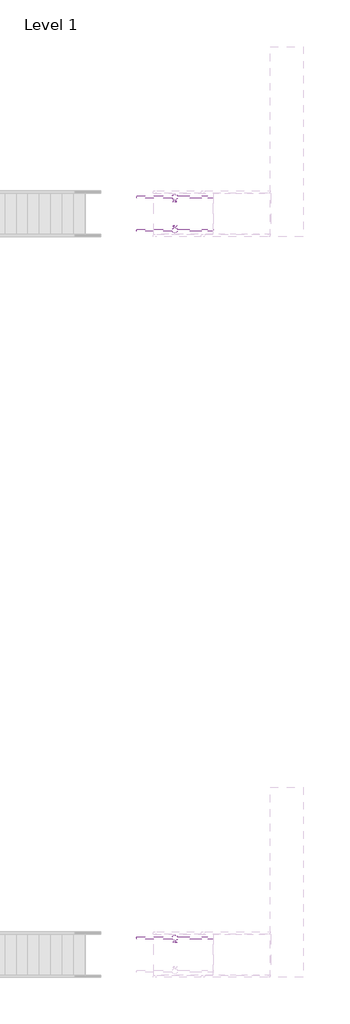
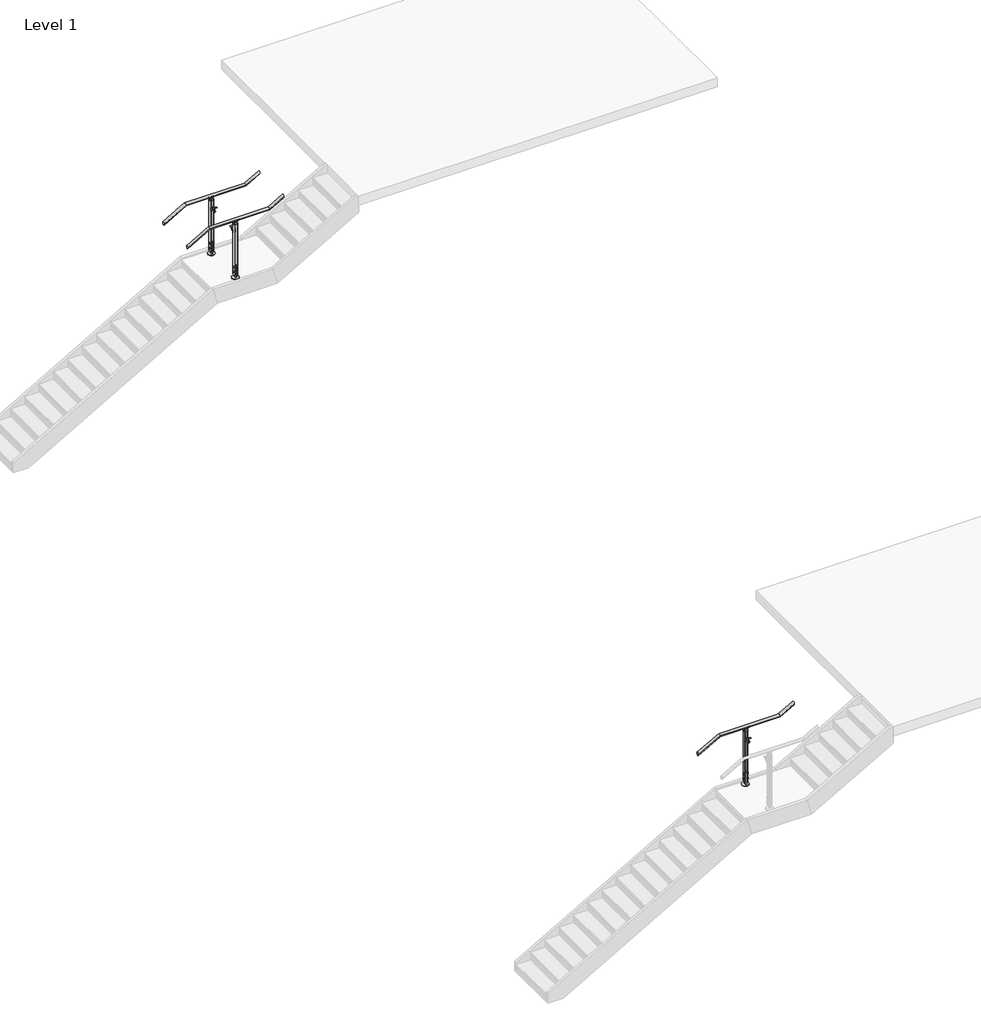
# One storey, part 23 of 36: 3 railings.
"""IFC4 building model written with IfcOpenShell, lengths in millimetres."""

from ifc_helpers import new_model, si_unit, point, frame, frame_2d, origin, place, context, project, spatial, polyline, circle_curve, ellipse_curve, trimmed, segment, composite_curve, outline, extrude, element, save
from ifc_brep_helpers import plane_surface, cylinder_surface, revolved_surface, advanced_brep

model = new_model("IFC4")

# Units and contexts
model_context = context("Model", 3, world=origin())
ifc_project = project(units=[si_unit("LENGTHUNIT", "METRE", prefix="MILLI")], contexts=[model_context])

# Site, building, storey
site = spatial("IfcSite", under=ifc_project)
building = spatial("IfcBuilding", under=site)
storey = spatial("IfcBuildingStorey", under=building, Name="Level 1", Elevation=0.0)

# Railings
placement = place(None, origin())
element("IfcRailing", 1, ObjectType="VIVA-BLADE-Perforated-Core Mount-Stair-Landing", at=placement, inside=storey, context=model_context, shape_type="SolidModel", body=[
    advanced_brep(
    [(87472.8048368, -2337.2855758, 3047.7740933), (87472.8048368, -2286.4855758, 3047.7740933), (87860.5501735, -2337.2855758, 3269.3428571), (87860.5501735, -2286.4855758, 3269.3428571), (88927.3501735, -2337.2855758, 3269.3428571), (88927.3501735, -2286.4855758, 3269.3428571), (89177.7798368, -2337.2855758, 3412.4455219), (89177.7798368, -2286.4855758, 3412.4455219)],
    [
        (0, 1, ellipse_curve(frame((87472.8048368, -2311.8855758, 3047.7740933), z_axis=(-1.0, 0.0, 0.0), x_axis=(0.0, 0.0, -0.9999999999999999)), 29.2544781, 25.4)),
        (1, 0, ellipse_curve(frame((87472.8048368, -2311.8855758, 3047.7740933), z_axis=(-1.0, 0.0, 0.0), x_axis=(0.0, 0.0, -0.9999999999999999)), 29.2544781, 25.4)),
        (0, 2),
        (2, 3, ellipse_curve(frame((87860.5501735, -2311.8855758, 3269.3428571), z_axis=(-0.9664996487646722, 0.0, -0.2566679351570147), x_axis=(0.25666793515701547, 0.0, -0.9664996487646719)), 26.2804027, 25.4)),
        (3, 1),
        (3, 2, ellipse_curve(frame((87860.5501735, -2311.8855758, 3269.3428571), z_axis=(-0.9664996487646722, 0.0, -0.2566679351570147), x_axis=(0.25666793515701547, 0.0, -0.9664996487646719)), 26.2804027, 25.4)),
        (2, 4),
        (4, 5, ellipse_curve(frame((88927.3501735, -2311.8855758, 3269.3428571), z_axis=(-0.9664996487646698, 0.0, -0.2566679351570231), x_axis=(-0.2566679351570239, 0.0, 0.9664996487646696)), 26.2804027, 25.4)),
        (5, 3),
        (5, 4, ellipse_curve(frame((88927.3501735, -2311.8855758, 3269.3428571), z_axis=(-0.9664996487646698, 0.0, -0.2566679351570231), x_axis=(-0.2566679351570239, 0.0, 0.9664996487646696)), 26.2804027, 25.4)),
        (6, 7, ellipse_curve(frame((89177.7798368, -2311.8855758, 3412.4455219), z_axis=(1.0, 0.0, 0.0), x_axis=(0.0, 0.0, -1.0)), 29.2544781, 25.4)),
        (7, 6, ellipse_curve(frame((89177.7798368, -2311.8855758, 3412.4455219), z_axis=(1.0, 0.0, 0.0), x_axis=(0.0, 0.0, -1.0)), 29.2544781, 25.4)),
        (4, 6),
        (7, 5),
    ],
    [
        plane_surface(frame((87472.8048368, -2311.8855758, 3077.0285714), z_axis=(-1.0, 0.0, 0.0), x_axis=(0.0, 1.0, 0.0))),
        cylinder_surface(frame((87485.4067658, -2311.8855758, 3054.9751956), z_axis=(-0.868243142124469, 0.0, -0.49613893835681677), x_axis=(0.0, 1.0, 0.0)), 25.4),
        cylinder_surface(frame((87853.8048368, -2311.8855758, 3269.3428571), z_axis=(-1.0, 0.0, 0.0), x_axis=(0.0, 1.0, 0.0)), 25.4),
        plane_surface(frame((89177.7798368, -2311.8855758, 3441.7), z_axis=(1.0, 0.0, 0.0), x_axis=(0.0, 1.0, 0.0))),
        cylinder_surface(frame((88933.2067658, -2311.8855758, 3272.6894813), z_axis=(-0.8682431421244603, 0.0, -0.4961389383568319), x_axis=(0.0, 1.0, 0.0)), 25.4),
    ],
    [
        (0, [[1, 2]]),
        (1, [[-1, 3, 4, 5]]),
        (1, [[-2, -5, 6, -3]]),
        (2, [[-4, 7, 8, 9]]),
        (2, [[-6, -9, 10, -7]]),
        (3, [[11, 12]]),
        (4, [[-8, 13, -12, 14]]),
        (4, [[-10, -14, -11, -13]]),
    ],
),
    extrude(outline(composite_curve([segment(trimmed(circle_curve(frame_2d((0.0, 7.0)), 7.0), [point((0.0, 14.0))], [point((0.0, 0.0))], False, "CARTESIAN"), True, "CONTINUOUS"), segment(trimmed(circle_curve(frame_2d((0.0, 7.0)), 7.0), [point((0.0, 0.0))], [point((0.0, 14.0))], False, "CARTESIAN"), True, "CONTINUOUS")], self_intersect=False)), frame((88325.2080869, -2226.2019533, 3013.7229503), z_axis=(0.0012555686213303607, 0.0, 0.999999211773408), x_axis=(0.999999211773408, 0.0, -0.0012555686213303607)), (0.0, 0.0, 1.0), 75.97),
    extrude(outline(composite_curve([segment(trimmed(circle_curve(frame_2d((-2217.9540213, 3111.669086)), 19.05), [point((-2231.4836095, 3098.2581672))], [point((-2204.4244331, 3098.2581672))], True, "CARTESIAN"), True, "CONTINUOUS"), segment(polyline([(-2204.4244331, 3098.2581672), (-2203.3980434, 3097.2407802)]), True, "CONTINUOUS"), segment(trimmed(circle_curve(frame_2d((-2204.4540213, 3096.1754583)), 1.5), [point((-2203.3980434, 3097.2407802))], [point((-2203.4686198, 3095.0445366))], False, "CARTESIAN"), True, "CONTINUOUS"), segment(trimmed(circle_curve(frame_2d((-2217.9540213, 3111.669086)), 22.05), [point((-2203.4686198, 3095.0445366))], [point((-2232.4394228, 3095.0445366))], False, "CARTESIAN"), True, "CONTINUOUS"), segment(trimmed(circle_curve(frame_2d((-2231.4540213, 3096.1754583)), 1.5), [point((-2232.4394228, 3095.0445366))], [point((-2232.5099992, 3097.2407802))], False, "CARTESIAN"), True, "CONTINUOUS"), segment(polyline([(-2232.5099992, 3097.2407802), (-2231.4836095, 3098.2581672)]), True, "CONTINUOUS")], self_intersect=False)), frame((88288.8567022, 0.0, 0.0), z_axis=(1.0, 0.0, 0.0), x_axis=(0.0, 1.0, 0.0)), (0.0, 0.0, 1.0), 74.5229187),
    extrude(outline(composite_curve([segment(trimmed(circle_curve(frame_2d((3040.5995463, 88325.2679904)), 12.5), [point((3040.5995463, 88312.7679904))], [point((3040.5995463, 88337.7679904))], False, "CARTESIAN"), True, "CONTINUOUS"), segment(trimmed(circle_curve(frame_2d((3040.5995463, 88325.2679904)), 12.5), [point((3040.5995463, 88337.7679904))], [point((3040.5995463, 88312.7679904))], False, "CARTESIAN"), True, "CONTINUOUS")], self_intersect=False)), frame((0.0, -2286.4857791, 0.0), z_axis=(0.0, 1.0, 0.0), x_axis=(0.0, 0.0, 1.0)), (0.0, 0.0, 1.0), 82.061346),
    extrude(outline(polyline([(88352.3671725, -2280.1357791), (88352.3671725, -2286.4857791), (88298.2397725, -2286.4857791), (88298.2397725, -2280.1357791), (88352.3671725, -2280.1357791)])), frame((0.0, 0.0, 3013.6558249), z_axis=(0.0, 0.0, 1.0), x_axis=(1.0, 0.0, 0.0)), (0.0, 0.0, 1.0), 54.1734375),
    extrude(outline(composite_curve([segment(trimmed(circle_curve(frame_2d((88325.2803999, -2315.3215157)), 63.5), [point((88325.2803999, -2378.8215157))], [point((88325.2803999, -2251.8215157))], False, "CARTESIAN"), True, "CONTINUOUS"), segment(trimmed(circle_curve(frame_2d((88325.2803999, -2315.3215157)), 63.5), [point((88325.2803999, -2251.8215157))], [point((88325.2803999, -2378.8215157))], False, "CARTESIAN"), True, "CONTINUOUS")], self_intersect=False)), frame((0.0, 0.0, 2177.1428571), z_axis=(0.0, 0.0, 1.0), x_axis=(1.0, 0.0, 0.0)), (0.0, 0.0, 1.0), 9.525),
    advanced_brep(
    [(88370.5297368, -2299.1254521, 3247.3396226), (88370.5297368, -2323.9975167, 3247.1963856), (88370.5297368, -2326.806447, 3242.3696317), (88370.5297368, -2295.2895547, 3242.9503901), (88280.0549368, -2299.1254521, 3247.3396226), (88280.0549368, -2295.2895547, 3242.9503901), (88280.0549368, -2326.9202404, 3242.4322535), (88280.0549368, -2324.0844888, 3247.2447018)],
    [
        (0, 1, circle_curve(frame((88370.5297368, -2311.689255, 3269.4544469), z_axis=(-1.0, 0.0, 0.0), x_axis=(0.0, 1.0, 0.0)), 25.4345159)),
        (1, 2, circle_curve(frame((88370.5297368, -2325.3291419, 3244.742217), z_axis=(1.0, 0.0, 0.0), x_axis=(0.0, 1.0, 0.0)), 2.7949225)),
        (2, 3, circle_curve(frame((88370.5297368, -2311.555792, 3270.2170736), z_axis=(1.0, 0.0, 0.0), x_axis=(0.0, 1.0, 0.0)), 31.75)),
        (3, 0, circle_curve(frame((88370.5297368, -2297.5778945, 3244.8213092), z_axis=(1.0, 0.0, 0.0), x_axis=(0.0, 1.0, 0.0)), 2.9558141)),
        (4, 5, circle_curve(frame((88280.0549368, -2297.5778945, 3244.8213092), z_axis=(-1.0, 0.0, 0.0), x_axis=(0.0, 1.0, 0.0)), 2.9558141)),
        (5, 6, circle_curve(frame((88280.0549368, -2311.555792, 3270.2170736), z_axis=(-1.0, 0.0, 0.0), x_axis=(0.0, 1.0, 0.0)), 31.75)),
        (6, 7, circle_curve(frame((88280.0549368, -2325.3291419, 3244.742217), z_axis=(-1.0, 0.0, 0.0), x_axis=(0.0, 1.0, 0.0)), 2.7949225)),
        (7, 4, circle_curve(frame((88280.0549368, -2311.689255, 3269.4544469), z_axis=(1.0, 0.0, 0.0), x_axis=(0.0, 1.0, 0.0)), 25.4345159)),
        (0, 4),
        (7, 1),
        (6, 2),
        (5, 3),
    ],
    [
        plane_surface(frame((88370.5297368, -2286.2547392, 3269.4544469), z_axis=(1.0, 0.0, 0.0), x_axis=(0.0, 0.0, -1.0))),
        plane_surface(frame((88280.0549368, -2286.2547392, 3269.4544469), z_axis=(-1.0, 0.0, 0.0), x_axis=(0.0, 0.0, 1.0))),
        revolved_surface(polyline([(88280.0549368, -2286.2547391, 3269.4544469), (88370.5297368, -2286.2547391, 3269.4544469)]), (88280.0549368, -2311.689255, 3269.4544469), (-1.0, 0.0, 0.0)),
        cylinder_surface(frame((88280.0549368, -2325.3291419, 3244.742217), z_axis=(1.0, 0.0, 0.0), x_axis=(0.0, 1.0, 0.0)), 2.7949225),
        cylinder_surface(frame((88280.0549368, -2311.555792, 3270.2170736), z_axis=(1.0, 0.0, 0.0), x_axis=(0.0, 1.0, 0.0)), 31.75),
        cylinder_surface(frame((88280.0549368, -2297.5778945, 3244.8213092), z_axis=(1.0, 0.0, 0.0), x_axis=(0.0, 1.0, 0.0)), 2.9558141),
    ],
    [
        (0, [[1, 2, 3, 4]]),
        (1, [[5, 6, 7, 8]]),
        (2, [[-1, 9, -8, 10]]),
        (3, [[-2, -10, -7, 11]]),
        (4, [[-3, -11, -6, 12]]),
        (5, [[-4, -12, -5, -9]]),
    ],
),
    advanced_brep(
    [(88337.9923368, -2309.3455758, 3229.6553571), (88312.5923368, -2309.3455758, 3229.6553571), (88298.2244219, -2309.3455758, 3244.023272), (88352.3602517, -2309.3455758, 3244.023272), (88337.9923368, -2314.4255758, 3229.6553571), (88352.3602517, -2314.4255758, 3244.023272), (88298.2244219, -2314.4255758, 3244.023272), (88312.5923368, -2314.4255758, 3229.6553571)],
    [
        (0, 1),
        (1, 2, circle_curve(frame((88298.2244219, -2309.3455758, 3229.6553571), z_axis=(0.0, -1.0, 0.0), x_axis=(-1.0, 0.0, 0.0)), 14.3679149)),
        (2, 3),
        (3, 0, circle_curve(frame((88352.3602517, -2309.3455758, 3229.6553571), z_axis=(0.0, -1.0, 0.0), x_axis=(-1.0, 0.0, 0.0)), 14.3679149)),
        (4, 5, circle_curve(frame((88352.3602517, -2314.4255758, 3229.6553571), z_axis=(0.0, 1.0, 0.0), x_axis=(-1.0, 0.0, 0.0)), 14.3679149)),
        (5, 6),
        (6, 7, circle_curve(frame((88298.2244219, -2314.4255758, 3229.6553571), z_axis=(0.0, 1.0, 0.0), x_axis=(-1.0, 0.0, 0.0)), 14.3679149)),
        (7, 4),
        (0, 4),
        (7, 1),
        (6, 2),
        (5, 3),
    ],
    [
        plane_surface(frame((88312.5923368, -2309.3455758, 3229.6553571), z_axis=(0.0, 1.0, 0.0), x_axis=(-1.0, 0.0, 0.0))),
        plane_surface(frame((88312.5923368, -2314.4255758, 3229.6553571), z_axis=(0.0, -1.0, 0.0), x_axis=(1.0, 0.0, 0.0))),
        plane_surface(frame((88337.9923368, -2309.3455758, 3229.6553571), z_axis=(0.0, 0.0, -1.0), x_axis=(0.0, -1.0, 0.0))),
        revolved_surface(polyline([(88283.856507, -2314.4255758, 3229.6553571), (88283.856507, -2309.3455758, 3229.6553571)]), (88298.2244219, -2314.4255758, 3229.6553571), (0.0, -1.0, 0.0)),
        plane_surface(frame((88298.2244219, -2309.3455758, 3244.023272), z_axis=(0.0, 0.0, 1.0), x_axis=(0.0, -1.0, 0.0))),
        revolved_surface(polyline([(88337.9923368, -2314.4255758, 3229.6553571), (88337.9923368, -2309.3455758, 3229.6553571)]), (88352.3602517, -2314.4255758, 3229.6553571), (0.0, -1.0, 0.0)),
    ],
    [
        (0, [[1, 2, 3, 4]]),
        (1, [[5, 6, 7, 8]]),
        (2, [[-1, 9, -8, 10]]),
        (3, [[-2, -10, -7, 11]]),
        (4, [[-3, -11, -6, 12]]),
        (5, [[-4, -12, -5, -9]]),
    ],
),
    extrude(outline(polyline([(88298.2175011, -2286.4857791), (88306.2423368, -2286.4857791), (88306.2423368, -2337.2881037), (88298.2175011, -2337.2881037), (88298.2175011, -2286.4857791)])), frame((0.0, 0.0, 2237.6440557), z_axis=(0.0, 0.0, 1.0), x_axis=(1.0, 0.0, 0.0)), (0.0, 0.0, 1.0), 974.5488015),
    extrude(outline(polyline([(88333.221338, -2286.486178), (88333.221338, -2337.2861702), (88317.2853476, -2337.2861702), (88317.2853476, -2286.486178), (88333.221338, -2286.486178)])), frame((0.0, 0.0, 2075.5428571), z_axis=(0.0, 0.0, 1.0), x_axis=(1.0, 0.0, 0.0)), (0.0, 0.0, 1.0), 342.9),
    extrude(outline(composite_curve([segment(trimmed(circle_curve(frame_2d((-2324.5880527, 3201.2845501)), 8.89), [point((-2333.4780527, 3201.2845501))], [point((-2315.6980527, 3201.2845501))], False, "CARTESIAN"), True, "CONTINUOUS"), segment(trimmed(circle_curve(frame_2d((-2324.5880527, 3201.2845501)), 8.89), [point((-2315.6980527, 3201.2845501))], [point((-2333.4780527, 3201.2845501))], False, "CARTESIAN"), True, "CONTINUOUS")], self_intersect=False)), frame((88293.5423368, 0.0, 0.0), z_axis=(1.0, 0.0, 0.0), x_axis=(0.0, 1.0, 0.0)), (0.0, 0.0, 1.0), 63.4880631),
    extrude(outline(composite_curve([segment(trimmed(circle_curve(frame_2d((-2299.1881547, 3201.2845501)), 8.89), [point((-2308.0781547, 3201.2845501))], [point((-2290.2981547, 3201.2845501))], False, "CARTESIAN"), True, "CONTINUOUS"), segment(trimmed(circle_curve(frame_2d((-2299.1881547, 3201.2845501)), 8.89), [point((-2290.2981547, 3201.2845501))], [point((-2308.0781547, 3201.2845501))], False, "CARTESIAN"), True, "CONTINUOUS")], self_intersect=False)), frame((88293.5423368, 0.0, 0.0), z_axis=(1.0, 0.0, 0.0), x_axis=(0.0, 1.0, 0.0)), (0.0, 0.0, 1.0), 63.4880631),
    extrude(outline(polyline([(3189.9551571, 88306.2423368), (3189.9551571, 88344.3423368), (3223.3053571, 88344.3423368), (3229.6553571, 88337.9923368), (3229.6553571, 88312.5923368), (3223.3053571, 88306.2423368), (3189.9551571, 88306.2423368)])), frame((0.0, -2337.2881037, 0.0), z_axis=(0.0, 1.0, 0.0), x_axis=(0.0, 0.0, 1.0)), (0.0, 0.0, 1.0), 50.8025279),
    extrude(outline(composite_curve([segment(trimmed(circle_curve(frame_2d((-2311.8853701, 2385.1476493)), 19.05), [point((-2330.9353701, 2385.1476493))], [point((-2292.8353701, 2385.1476493))], False, "CARTESIAN"), True, "CONTINUOUS"), segment(trimmed(circle_curve(frame_2d((-2311.8853701, 2385.1476493)), 19.05), [point((-2292.8353701, 2385.1476493))], [point((-2330.9353701, 2385.1476493))], False, "CARTESIAN"), True, "CONTINUOUS")], self_intersect=False)), frame((88288.8433368, 0.0, 0.0), z_axis=(1.0, 0.0, 0.0), x_axis=(0.0, 1.0, 0.0)), (0.0, 0.0, 1.0), 72.8981531),
    extrude(outline(composite_curve([segment(trimmed(circle_curve(frame_2d((-2311.8853701, 2296.2476493)), 19.05), [point((-2330.9353701, 2296.2476493))], [point((-2292.8353701, 2296.2476493))], False, "CARTESIAN"), True, "CONTINUOUS"), segment(trimmed(circle_curve(frame_2d((-2311.8853701, 2296.2476493)), 19.05), [point((-2292.8353701, 2296.2476493))], [point((-2330.9353701, 2296.2476493))], False, "CARTESIAN"), True, "CONTINUOUS")], self_intersect=False)), frame((88288.8433368, 0.0, 0.0), z_axis=(1.0, 0.0, 0.0), x_axis=(0.0, 1.0, 0.0)), (0.0, 0.0, 1.0), 72.8981531),
    extrude(outline(polyline([(88344.3422988, -2286.4857791), (88352.3432988, -2286.4857791), (88352.3432988, -2337.2881037), (88344.3422988, -2337.2881037), (88344.3422988, -2286.4857791)])), frame((0.0, 0.0, 2237.6440557), z_axis=(0.0, 0.0, 1.0), x_axis=(1.0, 0.0, 0.0)), (0.0, 0.0, 1.0), 974.5488015),
])
element("IfcRailing", 2, ObjectType="VIVA-BLADE-Perforated-Core Mount-Stair-Landing", at=placement, inside=storey, context=model_context, shape_type="SolidModel", body=[
    advanced_brep(
    [(87472.8048368, -1600.6855758, 3047.7740933), (87472.8048368, -1549.8855758, 3047.7740933), (87860.5501735, -1600.6855758, 3269.3428571), (87860.5501735, -1549.8855758, 3269.3428571), (88927.3501735, -1600.6855758, 3269.3428571), (88927.3501735, -1549.8855758, 3269.3428571), (89177.7798368, -1600.6855758, 3412.4455219), (89177.7798368, -1549.8855758, 3412.4455219)],
    [
        (0, 1, ellipse_curve(frame((87472.8048368, -1575.2855758, 3047.7740933), z_axis=(-1.0, 0.0, 0.0), x_axis=(0.0, 0.0, -0.9999999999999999)), 29.2544781, 25.4)),
        (1, 0, ellipse_curve(frame((87472.8048368, -1575.2855758, 3047.7740933), z_axis=(-1.0, 0.0, 0.0), x_axis=(0.0, 0.0, -0.9999999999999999)), 29.2544781, 25.4)),
        (0, 2),
        (2, 3, ellipse_curve(frame((87860.5501735, -1575.2855758, 3269.3428571), z_axis=(-0.9664996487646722, 0.0, -0.2566679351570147), x_axis=(0.25666793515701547, 0.0, -0.9664996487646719)), 26.2804027, 25.4)),
        (3, 1),
        (3, 2, ellipse_curve(frame((87860.5501735, -1575.2855758, 3269.3428571), z_axis=(-0.9664996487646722, 0.0, -0.2566679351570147), x_axis=(0.25666793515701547, 0.0, -0.9664996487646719)), 26.2804027, 25.4)),
        (2, 4),
        (4, 5, ellipse_curve(frame((88927.3501735, -1575.2855758, 3269.3428571), z_axis=(-0.9664996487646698, 0.0, -0.2566679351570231), x_axis=(-0.2566679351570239, 0.0, 0.9664996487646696)), 26.2804027, 25.4)),
        (5, 3),
        (5, 4, ellipse_curve(frame((88927.3501735, -1575.2855758, 3269.3428571), z_axis=(-0.9664996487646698, 0.0, -0.2566679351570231), x_axis=(-0.2566679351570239, 0.0, 0.9664996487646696)), 26.2804027, 25.4)),
        (6, 7, ellipse_curve(frame((89177.7798368, -1575.2855758, 3412.4455219), z_axis=(1.0, 0.0, 0.0), x_axis=(0.0, 0.0, -1.0)), 29.2544781, 25.4)),
        (7, 6, ellipse_curve(frame((89177.7798368, -1575.2855758, 3412.4455219), z_axis=(1.0, 0.0, 0.0), x_axis=(0.0, 0.0, -1.0)), 29.2544781, 25.4)),
        (4, 6),
        (7, 5),
    ],
    [
        plane_surface(frame((87472.8048368, -1575.2855758, 3077.0285714), z_axis=(-1.0, 0.0, 0.0), x_axis=(0.0, 1.0, 0.0))),
        cylinder_surface(frame((87485.4067658, -1575.2855758, 3054.9751956), z_axis=(-0.868243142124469, 0.0, -0.49613893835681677), x_axis=(0.0, 1.0, 0.0)), 25.4),
        cylinder_surface(frame((87853.8048368, -1575.2855758, 3269.3428571), z_axis=(-1.0, 0.0, 0.0), x_axis=(0.0, 1.0, 0.0)), 25.4),
        plane_surface(frame((89177.7798368, -1575.2855758, 3441.7), z_axis=(1.0, 0.0, 0.0), x_axis=(0.0, 1.0, 0.0))),
        cylinder_surface(frame((88933.2067658, -1575.2855758, 3272.6894813), z_axis=(-0.8682431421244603, 0.0, -0.4961389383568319), x_axis=(0.0, 1.0, 0.0)), 25.4),
    ],
    [
        (0, [[1, 2]]),
        (1, [[-1, 3, 4, 5]]),
        (1, [[-2, -5, 6, -3]]),
        (2, [[-4, 7, 8, 9]]),
        (2, [[-6, -9, 10, -7]]),
        (3, [[11, 12]]),
        (4, [[-8, 13, -12, 14]]),
        (4, [[-10, -14, -11, -13]]),
    ],
),
    extrude(outline(composite_curve([segment(trimmed(circle_curve(frame_2d((0.0, -7.0)), 7.0), [point((0.0, -14.0))], [point((0.0, 0.0))], False, "CARTESIAN"), True, "CONTINUOUS"), segment(trimmed(circle_curve(frame_2d((0.0, -7.0)), 7.0), [point((0.0, 0.0))], [point((0.0, -14.0))], False, "CARTESIAN"), True, "CONTINUOUS")], self_intersect=False)), frame((88325.2080869, -1660.9691982, 3013.7229503), z_axis=(0.0012555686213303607, 0.0, 0.999999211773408), x_axis=(0.999999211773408, 0.0, -0.0012555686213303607)), (0.0, 0.0, 1.0), 75.97),
    extrude(outline(composite_curve([segment(polyline([(-1655.687542, 3098.2581672), (-1654.6611524, 3097.2407802)]), True, "CONTINUOUS"), segment(trimmed(circle_curve(frame_2d((-1655.7171303, 3096.1754583)), 1.5), [point((-1654.6611524, 3097.2407802))], [point((-1654.7317288, 3095.0445366))], False, "CARTESIAN"), True, "CONTINUOUS"), segment(trimmed(circle_curve(frame_2d((-1669.2171303, 3111.669086)), 22.05), [point((-1654.7317288, 3095.0445366))], [point((-1683.7025317, 3095.0445366))], False, "CARTESIAN"), True, "CONTINUOUS"), segment(trimmed(circle_curve(frame_2d((-1682.7171303, 3096.1754583)), 1.5), [point((-1683.7025317, 3095.0445366))], [point((-1683.7731081, 3097.2407802))], False, "CARTESIAN"), True, "CONTINUOUS"), segment(polyline([(-1683.7731081, 3097.2407802), (-1682.7467185, 3098.2581672)]), True, "CONTINUOUS"), segment(trimmed(circle_curve(frame_2d((-1669.2171303, 3111.669086)), 19.05), [point((-1682.7467185, 3098.2581672))], [point((-1655.687542, 3098.2581672))], True, "CARTESIAN"), True, "CONTINUOUS")], self_intersect=False)), frame((88288.8567022, 0.0, 0.0), z_axis=(1.0, 0.0, 0.0), x_axis=(0.0, 1.0, 0.0)), (0.0, 0.0, 1.0), 74.5229187),
    extrude(outline(composite_curve([segment(trimmed(circle_curve(frame_2d((3040.5995463, 88325.2679904)), 12.5), [point((3040.5995463, 88312.7679904))], [point((3040.5995463, 88337.7679904))], False, "CARTESIAN"), True, "CONTINUOUS"), segment(trimmed(circle_curve(frame_2d((3040.5995463, 88325.2679904)), 12.5), [point((3040.5995463, 88337.7679904))], [point((3040.5995463, 88312.7679904))], False, "CARTESIAN"), True, "CONTINUOUS")], self_intersect=False)), frame((0.0, -1682.7467185, 0.0), z_axis=(0.0, 1.0, 0.0), x_axis=(0.0, 0.0, 1.0)), (0.0, 0.0, 1.0), 82.061346),
    extrude(outline(polyline([(88352.3671725, -1607.0353725), (88298.2397725, -1607.0353725), (88298.2397725, -1600.6853725), (88352.3671725, -1600.6853725), (88352.3671725, -1607.0353725)])), frame((0.0, 0.0, 3013.6558249), z_axis=(0.0, 0.0, 1.0), x_axis=(1.0, 0.0, 0.0)), (0.0, 0.0, 1.0), 54.1734375),
    extrude(outline(composite_curve([segment(trimmed(circle_curve(frame_2d((88325.2803999, -1571.8496359)), 63.5), [point((88325.2803999, -1508.3496359))], [point((88325.2803999, -1635.3496359))], False, "CARTESIAN"), True, "CONTINUOUS"), segment(trimmed(circle_curve(frame_2d((88325.2803999, -1571.8496359)), 63.5), [point((88325.2803999, -1635.3496359))], [point((88325.2803999, -1508.3496359))], False, "CARTESIAN"), True, "CONTINUOUS")], self_intersect=False)), frame((0.0, 0.0, 2177.1428571), z_axis=(0.0, 0.0, 1.0), x_axis=(1.0, 0.0, 0.0)), (0.0, 0.0, 1.0), 9.525),
    advanced_brep(
    [(88370.5297368, -1588.0456994, 3247.3396226), (88370.5297368, -1591.8815968, 3242.9503901), (88370.5297368, -1560.3647046, 3242.3696317), (88370.5297368, -1563.1736349, 3247.1963856), (88280.0549368, -1588.0456994, 3247.3396226), (88280.0549368, -1563.0866628, 3247.2447018), (88280.0549368, -1560.2509112, 3242.4322535), (88280.0549368, -1591.8815968, 3242.9503901)],
    [
        (0, 1, circle_curve(frame((88370.5297368, -1589.5932571, 3244.8213092), z_axis=(1.0, 0.0, 0.0), x_axis=(0.0, -1.0, 0.0)), 2.9558141)),
        (1, 2, circle_curve(frame((88370.5297368, -1575.6153596, 3270.2170736), z_axis=(1.0, 0.0, 0.0), x_axis=(0.0, -1.0, 0.0)), 31.75)),
        (2, 3, circle_curve(frame((88370.5297368, -1561.8420096, 3244.742217), z_axis=(1.0, 0.0, 0.0), x_axis=(0.0, -1.0, 0.0)), 2.7949225)),
        (3, 0, circle_curve(frame((88370.5297368, -1575.4818965, 3269.4544469), z_axis=(-1.0, 0.0, 0.0), x_axis=(0.0, -1.0, 0.0)), 25.4345159)),
        (4, 5, circle_curve(frame((88280.0549368, -1575.4818965, 3269.4544469), z_axis=(1.0, 0.0, 0.0), x_axis=(0.0, -1.0, 0.0)), 25.4345159)),
        (5, 6, circle_curve(frame((88280.0549368, -1561.8420096, 3244.742217), z_axis=(-1.0, 0.0, 0.0), x_axis=(0.0, -1.0, 0.0)), 2.7949225)),
        (6, 7, circle_curve(frame((88280.0549368, -1575.6153596, 3270.2170736), z_axis=(-1.0, 0.0, 0.0), x_axis=(0.0, -1.0, 0.0)), 31.75)),
        (7, 4, circle_curve(frame((88280.0549368, -1589.5932571, 3244.8213092), z_axis=(-1.0, 0.0, 0.0), x_axis=(0.0, -1.0, 0.0)), 2.9558141)),
        (3, 5),
        (4, 0),
        (2, 6),
        (1, 7),
    ],
    [
        plane_surface(frame((88370.5297368, -1600.9164124, 3269.4544469), z_axis=(1.0, 0.0, 0.0), x_axis=(0.0, 0.0, -1.0))),
        plane_surface(frame((88280.0549368, -1600.9164124, 3269.4544469), z_axis=(-1.0, 0.0, 0.0), x_axis=(0.0, 0.0, 1.0))),
        revolved_surface(polyline([(88280.0549368, -1600.9164124, 3269.4544469), (88370.5297368, -1600.9164124, 3269.4544469)]), (88280.0549368, -1575.4818965, 3269.4544469), (-1.0, 0.0, 0.0)),
        cylinder_surface(frame((88280.0549368, -1561.8420096, 3244.742217), z_axis=(1.0, 0.0, 0.0), x_axis=(0.0, -1.0, 0.0)), 2.7949225),
        cylinder_surface(frame((88280.0549368, -1575.6153596, 3270.2170736), z_axis=(1.0, 0.0, 0.0), x_axis=(0.0, -1.0, 0.0)), 31.75),
        cylinder_surface(frame((88280.0549368, -1589.5932571, 3244.8213092), z_axis=(1.0, 0.0, 0.0), x_axis=(0.0, -1.0, 0.0)), 2.9558141),
    ],
    [
        (0, [[1, 2, 3, 4]]),
        (1, [[5, 6, 7, 8]]),
        (2, [[9, -5, 10, -4]]),
        (3, [[11, -6, -9, -3]]),
        (4, [[12, -7, -11, -2]]),
        (5, [[-10, -8, -12, -1]]),
    ],
),
    advanced_brep(
    [(88337.9923368, -1577.8255758, 3229.6553571), (88352.3602517, -1577.8255758, 3244.023272), (88298.2244219, -1577.8255758, 3244.023272), (88312.5923368, -1577.8255758, 3229.6553571), (88337.9923368, -1572.7455758, 3229.6553571), (88312.5923368, -1572.7455758, 3229.6553571), (88298.2244219, -1572.7455758, 3244.023272), (88352.3602517, -1572.7455758, 3244.023272)],
    [
        (0, 1, circle_curve(frame((88352.3602517, -1577.8255758, 3229.6553571), z_axis=(0.0, 1.0, 0.0), x_axis=(-1.0, 0.0, 0.0)), 14.3679149)),
        (1, 2),
        (2, 3, circle_curve(frame((88298.2244219, -1577.8255758, 3229.6553571), z_axis=(0.0, 1.0, 0.0), x_axis=(-1.0, 0.0, 0.0)), 14.3679149)),
        (3, 0),
        (4, 5),
        (5, 6, circle_curve(frame((88298.2244219, -1572.7455758, 3229.6553571), z_axis=(0.0, -1.0, 0.0), x_axis=(-1.0, 0.0, 0.0)), 14.3679149)),
        (6, 7),
        (7, 4, circle_curve(frame((88352.3602517, -1572.7455758, 3229.6553571), z_axis=(0.0, -1.0, 0.0), x_axis=(-1.0, 0.0, 0.0)), 14.3679149)),
        (3, 5),
        (4, 0),
        (2, 6),
        (1, 7),
    ],
    [
        plane_surface(frame((88312.5923368, -1577.8255758, 3229.6553571), z_axis=(0.0, -1.0, 0.0), x_axis=(-1.0, 0.0, 0.0))),
        plane_surface(frame((88312.5923368, -1572.7455758, 3229.6553571), z_axis=(0.0, 1.0, 0.0), x_axis=(1.0, 0.0, 0.0))),
        plane_surface(frame((88337.9923368, -1577.8255758, 3229.6553571), z_axis=(0.0, 0.0, -1.0), x_axis=(0.0, 1.0, 0.0))),
        revolved_surface(polyline([(88283.856507, -1572.7455758, 3229.6553571), (88283.856507, -1577.8255758, 3229.6553571)]), (88298.2244219, -1572.7455758, 3229.6553571), (0.0, 1.0, 0.0)),
        plane_surface(frame((88298.2244219, -1577.8255758, 3244.023272), z_axis=(0.0, 0.0, 1.0), x_axis=(0.0, 1.0, 0.0))),
        revolved_surface(polyline([(88337.9923368, -1572.7455758, 3229.6553571), (88337.9923368, -1577.8255758, 3229.6553571)]), (88352.3602517, -1572.7455758, 3229.6553571), (0.0, 1.0, 0.0)),
    ],
    [
        (0, [[1, 2, 3, 4]]),
        (1, [[5, 6, 7, 8]]),
        (2, [[9, -5, 10, -4]]),
        (3, [[11, -6, -9, -3]]),
        (4, [[12, -7, -11, -2]]),
        (5, [[-10, -8, -12, -1]]),
    ],
),
    extrude(outline(polyline([(88298.2175011, -1600.6853725), (88298.2175011, -1549.8830478), (88306.2423368, -1549.8830478), (88306.2423368, -1600.6853725), (88298.2175011, -1600.6853725)])), frame((0.0, 0.0, 2237.6440557), z_axis=(0.0, 0.0, 1.0), x_axis=(1.0, 0.0, 0.0)), (0.0, 0.0, 1.0), 974.5488015),
    extrude(outline(polyline([(88333.221338, -1600.6849736), (88317.2853476, -1600.6849736), (88317.2853476, -1549.8849813), (88333.221338, -1549.8849813), (88333.221338, -1600.6849736)])), frame((0.0, 0.0, 2075.5428571), z_axis=(0.0, 0.0, 1.0), x_axis=(1.0, 0.0, 0.0)), (0.0, 0.0, 1.0), 342.9),
    extrude(outline(composite_curve([segment(trimmed(circle_curve(frame_2d((-1562.5830988, 3201.2845501)), 8.89), [point((-1553.6930988, 3201.2845501))], [point((-1571.4730988, 3201.2845501))], False, "CARTESIAN"), True, "CONTINUOUS"), segment(trimmed(circle_curve(frame_2d((-1562.5830988, 3201.2845501)), 8.89), [point((-1571.4730988, 3201.2845501))], [point((-1553.6930988, 3201.2845501))], False, "CARTESIAN"), True, "CONTINUOUS")], self_intersect=False)), frame((88293.5423368, 0.0, 0.0), z_axis=(1.0, 0.0, 0.0), x_axis=(0.0, 1.0, 0.0)), (0.0, 0.0, 1.0), 63.4880631),
    extrude(outline(composite_curve([segment(trimmed(circle_curve(frame_2d((-1587.9829968, 3201.2845501)), 8.89), [point((-1579.0929968, 3201.2845501))], [point((-1596.8729968, 3201.2845501))], False, "CARTESIAN"), True, "CONTINUOUS"), segment(trimmed(circle_curve(frame_2d((-1587.9829968, 3201.2845501)), 8.89), [point((-1596.8729968, 3201.2845501))], [point((-1579.0929968, 3201.2845501))], False, "CARTESIAN"), True, "CONTINUOUS")], self_intersect=False)), frame((88293.5423368, 0.0, 0.0), z_axis=(1.0, 0.0, 0.0), x_axis=(0.0, 1.0, 0.0)), (0.0, 0.0, 1.0), 63.4880631),
    extrude(outline(polyline([(3189.9551571, 88306.2423368), (3189.9551571, 88344.3423368), (3223.3053571, 88344.3423368), (3229.6553571, 88337.9923368), (3229.6553571, 88312.5923368), (3223.3053571, 88306.2423368), (3189.9551571, 88306.2423368)])), frame((0.0, -1600.6855758, 0.0), z_axis=(0.0, 1.0, 0.0), x_axis=(0.0, 0.0, 1.0)), (0.0, 0.0, 1.0), 50.8025279),
    extrude(outline(composite_curve([segment(trimmed(circle_curve(frame_2d((-1575.2857815, 2385.1476493)), 19.05), [point((-1556.2357815, 2385.1476493))], [point((-1594.3357815, 2385.1476493))], False, "CARTESIAN"), True, "CONTINUOUS"), segment(trimmed(circle_curve(frame_2d((-1575.2857815, 2385.1476493)), 19.05), [point((-1594.3357815, 2385.1476493))], [point((-1556.2357815, 2385.1476493))], False, "CARTESIAN"), True, "CONTINUOUS")], self_intersect=False)), frame((88288.8433368, 0.0, 0.0), z_axis=(1.0, 0.0, 0.0), x_axis=(0.0, 1.0, 0.0)), (0.0, 0.0, 1.0), 72.8981531),
    extrude(outline(composite_curve([segment(trimmed(circle_curve(frame_2d((-1575.2857815, 2296.2476493)), 19.05), [point((-1556.2357815, 2296.2476493))], [point((-1594.3357815, 2296.2476493))], False, "CARTESIAN"), True, "CONTINUOUS"), segment(trimmed(circle_curve(frame_2d((-1575.2857815, 2296.2476493)), 19.05), [point((-1594.3357815, 2296.2476493))], [point((-1556.2357815, 2296.2476493))], False, "CARTESIAN"), True, "CONTINUOUS")], self_intersect=False)), frame((88288.8433368, 0.0, 0.0), z_axis=(1.0, 0.0, 0.0), x_axis=(0.0, 1.0, 0.0)), (0.0, 0.0, 1.0), 72.8981531),
    extrude(outline(polyline([(88344.3422988, -1600.6853725), (88344.3422988, -1549.8830478), (88352.3432988, -1549.8830478), (88352.3432988, -1600.6853725), (88344.3422988, -1600.6853725)])), frame((0.0, 0.0, 2237.6440557), z_axis=(0.0, 0.0, 1.0), x_axis=(1.0, 0.0, 0.0)), (0.0, 0.0, 1.0), 974.5488015),
])
element("IfcRailing", 3, ObjectType="VIVA-BLADE-Wire Mesh-Core Mount-Stair-Landing", at=placement, inside=storey, context=model_context, shape_type="SolidModel", body=[
    advanced_brep(
    [(87472.8048368, -18068.5990002, 3047.7740933), (87472.8048368, -18017.7990002, 3047.7740933), (87860.5501735, -18068.5990002, 3269.3428571), (87860.5501735, -18017.7990002, 3269.3428571), (88927.3501735, -18068.5990002, 3269.3428571), (88927.3501735, -18017.7990002, 3269.3428571), (89177.7798368, -18068.5990002, 3412.4455219), (89177.7798368, -18017.7990002, 3412.4455219)],
    [
        (0, 1, ellipse_curve(frame((87472.8048368, -18043.1990002, 3047.7740933), z_axis=(-1.0, 0.0, 0.0), x_axis=(0.0, 0.0, -0.9999999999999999)), 29.2544781, 25.4)),
        (1, 0, ellipse_curve(frame((87472.8048368, -18043.1990002, 3047.7740933), z_axis=(-1.0, 0.0, 0.0), x_axis=(0.0, 0.0, -0.9999999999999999)), 29.2544781, 25.4)),
        (0, 2),
        (2, 3, ellipse_curve(frame((87860.5501735, -18043.1990002, 3269.3428571), z_axis=(-0.9664996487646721, 0.0, -0.2566679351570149), x_axis=(0.25666793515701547, 0.0, -0.9664996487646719)), 26.2804027, 25.4)),
        (3, 1),
        (3, 2, ellipse_curve(frame((87860.5501735, -18043.1990002, 3269.3428571), z_axis=(-0.9664996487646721, 0.0, -0.2566679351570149), x_axis=(0.25666793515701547, 0.0, -0.9664996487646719)), 26.2804027, 25.4)),
        (2, 4),
        (4, 5, ellipse_curve(frame((88927.3501735, -18043.1990002, 3269.3428571), z_axis=(-0.9664996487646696, 0.0, -0.25666793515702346), x_axis=(-0.2566679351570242, 0.0, 0.9664996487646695)), 26.2804027, 25.4)),
        (5, 3),
        (5, 4, ellipse_curve(frame((88927.3501735, -18043.1990002, 3269.3428571), z_axis=(-0.9664996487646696, 0.0, -0.25666793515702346), x_axis=(-0.2566679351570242, 0.0, 0.9664996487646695)), 26.2804027, 25.4)),
        (6, 7, ellipse_curve(frame((89177.7798368, -18043.1990002, 3412.4455219), z_axis=(1.0, 0.0, 0.0), x_axis=(0.0, 0.0, -1.0)), 29.2544781, 25.4)),
        (7, 6, ellipse_curve(frame((89177.7798368, -18043.1990002, 3412.4455219), z_axis=(1.0, 0.0, 0.0), x_axis=(0.0, 0.0, -1.0)), 29.2544781, 25.4)),
        (4, 6),
        (7, 5),
    ],
    [
        plane_surface(frame((87472.8048368, -18043.1990002, 3077.0285714), z_axis=(-1.0, 0.0, 0.0), x_axis=(0.0, 1.0, 0.0))),
        cylinder_surface(frame((87485.4067658, -18043.1990002, 3054.9751956), z_axis=(-0.8682431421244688, 0.0, -0.496138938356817), x_axis=(0.0, 1.0, 0.0)), 25.4),
        cylinder_surface(frame((87853.8048368, -18043.1990002, 3269.3428571), z_axis=(-1.0, 0.0, 0.0), x_axis=(0.0, 1.0, 0.0)), 25.4),
        plane_surface(frame((89177.7798368, -18043.1990002, 3441.7), z_axis=(1.0, 0.0, 0.0), x_axis=(0.0, 1.0, 0.0))),
        cylinder_surface(frame((88933.2067658, -18043.1990002, 3272.6894813), z_axis=(-0.8682431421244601, 0.0, -0.49613893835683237), x_axis=(0.0, 1.0, 0.0)), 25.4),
    ],
    [
        (0, [[1, 2]]),
        (1, [[-1, 3, 4, 5]]),
        (1, [[-2, -5, 6, -3]]),
        (2, [[-4, 7, 8, 9]]),
        (2, [[-6, -9, 10, -7]]),
        (3, [[11, 12]]),
        (4, [[-8, 13, -12, 14]]),
        (4, [[-10, -14, -11, -13]]),
    ],
),
    extrude(outline(composite_curve([segment(trimmed(circle_curve(frame_2d((0.0, -7.0)), 7.0), [point((0.0, -14.0))], [point((0.0, 0.0))], False, "CARTESIAN"), True, "CONTINUOUS"), segment(trimmed(circle_curve(frame_2d((0.0, -7.0)), 7.0), [point((0.0, 0.0))], [point((0.0, -14.0))], False, "CARTESIAN"), True, "CONTINUOUS")], self_intersect=False)), frame((88325.2080869, -18128.8826226, 3013.7229503), z_axis=(0.0012555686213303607, 0.0, 0.999999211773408), x_axis=(0.999999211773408, 0.0, -0.0012555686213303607)), (0.0, 0.0, 1.0), 75.97),
    extrude(outline(composite_curve([segment(polyline([(-18123.6009664, 3098.2581672), (-18122.5745768, 3097.2407802)]), True, "CONTINUOUS"), segment(trimmed(circle_curve(frame_2d((-18123.6305547, 3096.1754583)), 1.5), [point((-18122.5745768, 3097.2407802))], [point((-18122.6451532, 3095.0445366))], False, "CARTESIAN"), True, "CONTINUOUS"), segment(trimmed(circle_curve(frame_2d((-18137.1305547, 3111.669086)), 22.05), [point((-18122.6451532, 3095.0445366))], [point((-18151.6159561, 3095.0445366))], False, "CARTESIAN"), True, "CONTINUOUS"), segment(trimmed(circle_curve(frame_2d((-18150.6305547, 3096.1754583)), 1.5), [point((-18151.6159561, 3095.0445366))], [point((-18151.6865325, 3097.2407802))], False, "CARTESIAN"), True, "CONTINUOUS"), segment(polyline([(-18151.6865325, 3097.2407802), (-18150.6601429, 3098.2581672)]), True, "CONTINUOUS"), segment(trimmed(circle_curve(frame_2d((-18137.1305547, 3111.669086)), 19.05), [point((-18150.6601429, 3098.2581672))], [point((-18123.6009664, 3098.2581672))], True, "CARTESIAN"), True, "CONTINUOUS")], self_intersect=False)), frame((88288.8567022, 0.0, 0.0), z_axis=(1.0, 0.0, 0.0), x_axis=(0.0, 1.0, 0.0)), (0.0, 0.0, 1.0), 74.5229187),
    extrude(outline(composite_curve([segment(trimmed(circle_curve(frame_2d((3040.5995463, 88325.2679904)), 12.5), [point((3040.5995463, 88312.7679904))], [point((3040.5995463, 88337.7679904))], False, "CARTESIAN"), True, "CONTINUOUS"), segment(trimmed(circle_curve(frame_2d((3040.5995463, 88325.2679904)), 12.5), [point((3040.5995463, 88337.7679904))], [point((3040.5995463, 88312.7679904))], False, "CARTESIAN"), True, "CONTINUOUS")], self_intersect=False)), frame((0.0, -18150.6601429, 0.0), z_axis=(0.0, 1.0, 0.0), x_axis=(0.0, 0.0, 1.0)), (0.0, 0.0, 1.0), 82.061346),
    extrude(outline(polyline([(88352.3671725, -18074.9487969), (88298.2397725, -18074.9487969), (88298.2397725, -18068.5987969), (88352.3671725, -18068.5987969), (88352.3671725, -18074.9487969)])), frame((0.0, 0.0, 3013.6558249), z_axis=(0.0, 0.0, 1.0), x_axis=(1.0, 0.0, 0.0)), (0.0, 0.0, 1.0), 54.1734375),
    extrude(outline(composite_curve([segment(trimmed(circle_curve(frame_2d((88325.2803999, -18039.7630603)), 63.5), [point((88325.2803999, -17976.2630603))], [point((88325.2803999, -18103.2630603))], False, "CARTESIAN"), True, "CONTINUOUS"), segment(trimmed(circle_curve(frame_2d((88325.2803999, -18039.7630603)), 63.5), [point((88325.2803999, -18103.2630603))], [point((88325.2803999, -17976.2630603))], False, "CARTESIAN"), True, "CONTINUOUS")], self_intersect=False)), frame((0.0, 0.0, 2177.1428571), z_axis=(0.0, 0.0, 1.0), x_axis=(1.0, 0.0, 0.0)), (0.0, 0.0, 1.0), 9.525),
    advanced_brep(
    [(88370.5297368, -18055.9591238, 3247.3396226), (88370.5297368, -18059.7950212, 3242.9503901), (88370.5297368, -18028.278129, 3242.3696317), (88370.5297368, -18031.0870593, 3247.1963856), (88280.0549368, -18055.9591238, 3247.3396226), (88280.0549368, -18031.0000872, 3247.2447018), (88280.0549368, -18028.1643356, 3242.4322535), (88280.0549368, -18059.7950212, 3242.9503901)],
    [
        (0, 1, circle_curve(frame((88370.5297368, -18057.5066815, 3244.8213092), z_axis=(1.0, 0.0, 0.0), x_axis=(0.0, -1.0, 0.0)), 2.9558141)),
        (1, 2, circle_curve(frame((88370.5297368, -18043.528784, 3270.2170736), z_axis=(1.0, 0.0, 0.0), x_axis=(0.0, -1.0, 0.0)), 31.75)),
        (2, 3, circle_curve(frame((88370.5297368, -18029.755434, 3244.742217), z_axis=(1.0, 0.0, 0.0), x_axis=(0.0, -1.0, 0.0)), 2.7949225)),
        (3, 0, circle_curve(frame((88370.5297368, -18043.3953209, 3269.4544469), z_axis=(-1.0, 0.0, 0.0), x_axis=(0.0, -1.0, 0.0)), 25.4345159)),
        (4, 5, circle_curve(frame((88280.0549368, -18043.3953209, 3269.4544469), z_axis=(1.0, 0.0, 0.0), x_axis=(0.0, -1.0, 0.0)), 25.4345159)),
        (5, 6, circle_curve(frame((88280.0549368, -18029.755434, 3244.742217), z_axis=(-1.0, 0.0, 0.0), x_axis=(0.0, -1.0, 0.0)), 2.7949225)),
        (6, 7, circle_curve(frame((88280.0549368, -18043.528784, 3270.2170736), z_axis=(-1.0, 0.0, 0.0), x_axis=(0.0, -1.0, 0.0)), 31.75)),
        (7, 4, circle_curve(frame((88280.0549368, -18057.5066815, 3244.8213092), z_axis=(-1.0, 0.0, 0.0), x_axis=(0.0, -1.0, 0.0)), 2.9558141)),
        (3, 5),
        (4, 0),
        (2, 6),
        (1, 7),
    ],
    [
        plane_surface(frame((88370.5297368, -18068.8298368, 3269.4544469), z_axis=(1.0, 0.0, 0.0), x_axis=(0.0, 0.0, -1.0))),
        plane_surface(frame((88280.0549368, -18068.8298368, 3269.4544469), z_axis=(-1.0, 0.0, 0.0), x_axis=(0.0, 0.0, 1.0))),
        revolved_surface(polyline([(88280.0549368, -18068.8298368, 3269.4544469), (88370.5297368, -18068.8298368, 3269.4544469)]), (88280.0549368, -18043.3953209, 3269.4544469), (-1.0, 0.0, 0.0)),
        cylinder_surface(frame((88280.0549368, -18029.755434, 3244.742217), z_axis=(1.0, 0.0, 0.0), x_axis=(0.0, -1.0, 0.0)), 2.7949225),
        cylinder_surface(frame((88280.0549368, -18043.528784, 3270.2170736), z_axis=(1.0, 0.0, 0.0), x_axis=(0.0, -1.0, 0.0)), 31.75),
        cylinder_surface(frame((88280.0549368, -18057.5066815, 3244.8213092), z_axis=(1.0, 0.0, 0.0), x_axis=(0.0, -1.0, 0.0)), 2.9558141),
    ],
    [
        (0, [[1, 2, 3, 4]]),
        (1, [[5, 6, 7, 8]]),
        (2, [[9, -5, 10, -4]]),
        (3, [[11, -6, -9, -3]]),
        (4, [[12, -7, -11, -2]]),
        (5, [[-10, -8, -12, -1]]),
    ],
),
    advanced_brep(
    [(88337.9923368, -18045.7390002, 3229.6553571), (88352.3602517, -18045.7390002, 3244.023272), (88298.2244219, -18045.7390002, 3244.023272), (88312.5923368, -18045.7390002, 3229.6553571), (88337.9923368, -18040.6590002, 3229.6553571), (88312.5923368, -18040.6590002, 3229.6553571), (88298.2244219, -18040.6590002, 3244.023272), (88352.3602517, -18040.6590002, 3244.023272)],
    [
        (0, 1, circle_curve(frame((88352.3602517, -18045.7390002, 3229.6553571), z_axis=(0.0, 1.0, 0.0), x_axis=(-1.0, 0.0, 0.0)), 14.3679149)),
        (1, 2),
        (2, 3, circle_curve(frame((88298.2244219, -18045.7390002, 3229.6553571), z_axis=(0.0, 1.0, 0.0), x_axis=(-1.0, 0.0, 0.0)), 14.3679149)),
        (3, 0),
        (4, 5),
        (5, 6, circle_curve(frame((88298.2244219, -18040.6590002, 3229.6553571), z_axis=(0.0, -1.0, 0.0), x_axis=(-1.0, 0.0, 0.0)), 14.3679149)),
        (6, 7),
        (7, 4, circle_curve(frame((88352.3602517, -18040.6590002, 3229.6553571), z_axis=(0.0, -1.0, 0.0), x_axis=(-1.0, 0.0, 0.0)), 14.3679149)),
        (3, 5),
        (4, 0),
        (2, 6),
        (1, 7),
    ],
    [
        plane_surface(frame((88312.5923368, -18045.7390002, 3229.6553571), z_axis=(0.0, -1.0, 0.0), x_axis=(-1.0, 0.0, 0.0))),
        plane_surface(frame((88312.5923368, -18040.6590002, 3229.6553571), z_axis=(0.0, 1.0, 0.0), x_axis=(1.0, 0.0, 0.0))),
        plane_surface(frame((88337.9923368, -18045.7390002, 3229.6553571), z_axis=(0.0, 0.0, -1.0), x_axis=(0.0, 1.0, 0.0))),
        revolved_surface(polyline([(88283.856507, -18040.6590002, 3229.6553571), (88283.856507, -18045.7390002, 3229.6553571)]), (88298.2244219, -18040.6590002, 3229.6553571), (0.0, 1.0, 0.0)),
        plane_surface(frame((88298.2244219, -18045.7390002, 3244.023272), z_axis=(0.0, 0.0, 1.0), x_axis=(0.0, 1.0, 0.0))),
        revolved_surface(polyline([(88337.9923368, -18040.6590002, 3229.6553571), (88337.9923368, -18045.7390002, 3229.6553571)]), (88352.3602517, -18040.6590002, 3229.6553571), (0.0, 1.0, 0.0)),
    ],
    [
        (0, [[1, 2, 3, 4]]),
        (1, [[5, 6, 7, 8]]),
        (2, [[9, -5, 10, -4]]),
        (3, [[11, -6, -9, -3]]),
        (4, [[12, -7, -11, -2]]),
        (5, [[-10, -8, -12, -1]]),
    ],
),
    extrude(outline(polyline([(88298.2175011, -18068.5987969), (88298.2175011, -18017.7964722), (88306.2423368, -18017.7964722), (88306.2423368, -18068.5987969), (88298.2175011, -18068.5987969)])), frame((0.0, 0.0, 2237.6440557), z_axis=(0.0, 0.0, 1.0), x_axis=(1.0, 0.0, 0.0)), (0.0, 0.0, 1.0), 974.5488015),
    extrude(outline(polyline([(88333.221338, -18068.598398), (88317.2853476, -18068.598398), (88317.2853476, -18017.7984057), (88333.221338, -18017.7984057), (88333.221338, -18068.598398)])), frame((0.0, 0.0, 2075.5428571), z_axis=(0.0, 0.0, 1.0), x_axis=(1.0, 0.0, 0.0)), (0.0, 0.0, 1.0), 342.9),
    extrude(outline(composite_curve([segment(trimmed(circle_curve(frame_2d((-18030.4965232, 3201.2845501)), 8.89), [point((-18021.6065232, 3201.2845501))], [point((-18039.3865232, 3201.2845501))], False, "CARTESIAN"), True, "CONTINUOUS"), segment(trimmed(circle_curve(frame_2d((-18030.4965232, 3201.2845501)), 8.89), [point((-18039.3865232, 3201.2845501))], [point((-18021.6065232, 3201.2845501))], False, "CARTESIAN"), True, "CONTINUOUS")], self_intersect=False)), frame((88293.5423368, 0.0, 0.0), z_axis=(1.0, 0.0, 0.0), x_axis=(0.0, 1.0, 0.0)), (0.0, 0.0, 1.0), 63.4880631),
    extrude(outline(composite_curve([segment(trimmed(circle_curve(frame_2d((-18055.8964212, 3201.2845501)), 8.89), [point((-18047.0064212, 3201.2845501))], [point((-18064.7864212, 3201.2845501))], False, "CARTESIAN"), True, "CONTINUOUS"), segment(trimmed(circle_curve(frame_2d((-18055.8964212, 3201.2845501)), 8.89), [point((-18064.7864212, 3201.2845501))], [point((-18047.0064212, 3201.2845501))], False, "CARTESIAN"), True, "CONTINUOUS")], self_intersect=False)), frame((88293.5423368, 0.0, 0.0), z_axis=(1.0, 0.0, 0.0), x_axis=(0.0, 1.0, 0.0)), (0.0, 0.0, 1.0), 63.4880631),
    extrude(outline(polyline([(3189.9551571, 88306.2423368), (3189.9551571, 88344.3423368), (3223.3053571, 88344.3423368), (3229.6553571, 88337.9923368), (3229.6553571, 88312.5923368), (3223.3053571, 88306.2423368), (3189.9551571, 88306.2423368)])), frame((0.0, -18068.5990002, 0.0), z_axis=(0.0, 1.0, 0.0), x_axis=(0.0, 0.0, 1.0)), (0.0, 0.0, 1.0), 50.8025279),
    extrude(outline(composite_curve([segment(trimmed(circle_curve(frame_2d((-18043.1992059, 2385.1476493)), 19.05), [point((-18024.1492059, 2385.1476493))], [point((-18062.2492059, 2385.1476493))], False, "CARTESIAN"), True, "CONTINUOUS"), segment(trimmed(circle_curve(frame_2d((-18043.1992059, 2385.1476493)), 19.05), [point((-18062.2492059, 2385.1476493))], [point((-18024.1492059, 2385.1476493))], False, "CARTESIAN"), True, "CONTINUOUS")], self_intersect=False)), frame((88288.8433368, 0.0, 0.0), z_axis=(1.0, 0.0, 0.0), x_axis=(0.0, 1.0, 0.0)), (0.0, 0.0, 1.0), 72.8981531),
    extrude(outline(composite_curve([segment(trimmed(circle_curve(frame_2d((-18043.1992059, 2296.2476493)), 19.05), [point((-18024.1492059, 2296.2476493))], [point((-18062.2492059, 2296.2476493))], False, "CARTESIAN"), True, "CONTINUOUS"), segment(trimmed(circle_curve(frame_2d((-18043.1992059, 2296.2476493)), 19.05), [point((-18062.2492059, 2296.2476493))], [point((-18024.1492059, 2296.2476493))], False, "CARTESIAN"), True, "CONTINUOUS")], self_intersect=False)), frame((88288.8433368, 0.0, 0.0), z_axis=(1.0, 0.0, 0.0), x_axis=(0.0, 1.0, 0.0)), (0.0, 0.0, 1.0), 72.8981531),
    extrude(outline(polyline([(88344.3422988, -18068.5987969), (88344.3422988, -18017.7964722), (88352.3432988, -18017.7964722), (88352.3432988, -18068.5987969), (88344.3422988, -18068.5987969)])), frame((0.0, 0.0, 2237.6440557), z_axis=(0.0, 0.0, 1.0), x_axis=(1.0, 0.0, 0.0)), (0.0, 0.0, 1.0), 974.5488015),
])

save(model, "model.ifc")
